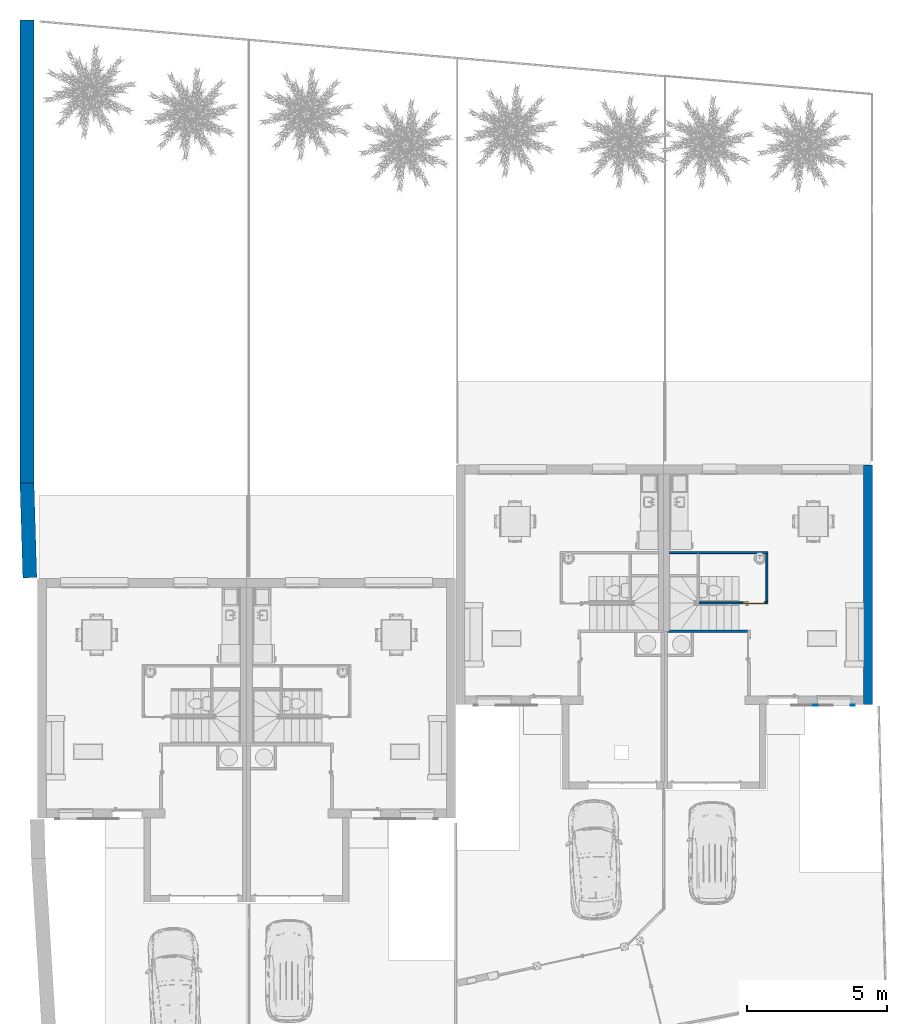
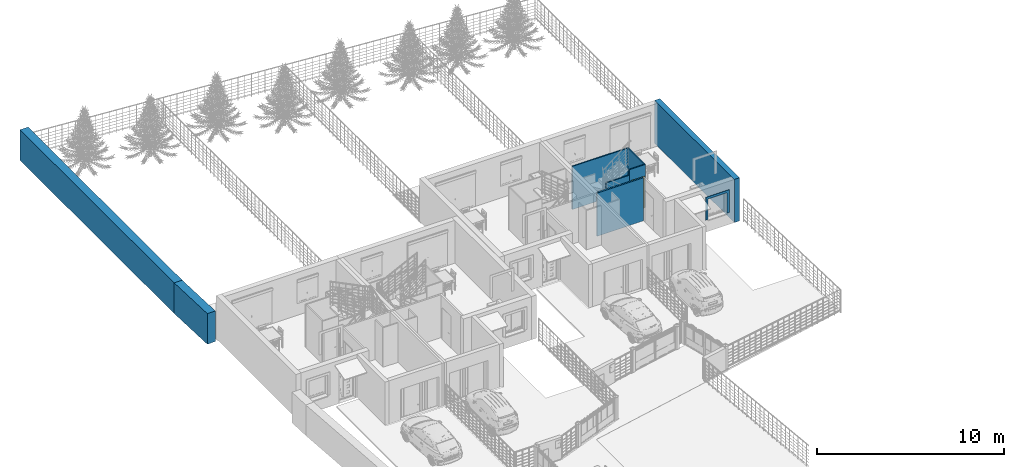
# One storey, part 22 of 33: 9 walls, 1 door, 2 openings.
"""IFC2X3 building model written with IfcOpenShell, lengths in metres."""

from ifc_helpers import new_model, entity, si_unit, converted_unit, derived_unit, direction, frame, frame_2d, origin, place, context, subcontext, project, spatial, polyline, rectangle, outline, extrude, faceted_brep, source, transform, mapped, material, material_list, layer, layer_set, layer_usage, type_object, type_shapes, element, fill, save


model = new_model("IFC2X3")

# Units and contexts
model_context = context("Model", 3, precision=1e-05, world=origin(), true_north=direction((6.12303176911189e-17, 1.0)))
context_of_model = context(None, 3, precision=1e-05, world=origin(), true_north=direction((6.12303176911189e-17, 1.0)))
body_context = subcontext(model_context, "Body", "Model", "MODEL_VIEW")
ifc_project = project(units=[si_unit("LENGTHUNIT", "METRE"), si_unit("AREAUNIT", "SQUARE_METRE"), si_unit("VOLUMEUNIT", "CUBIC_METRE"), converted_unit("PLANEANGLEUNIT", "DEGREE", entity("IfcRatioMeasure", 0.0174532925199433), si_unit("PLANEANGLEUNIT", "RADIAN"), dimensions=[0, 0, 0, 0, 0, 0, 0]), si_unit("MASSUNIT", "GRAM", prefix="KILO"), si_unit("TIMEUNIT", "SECOND"), si_unit("FREQUENCYUNIT", "HERTZ"), si_unit("THERMODYNAMICTEMPERATUREUNIT", "DEGREE_CELSIUS"), derived_unit("THERMALTRANSMITTANCEUNIT", [(si_unit("MASSUNIT", "GRAM", prefix="KILO"), 1), (si_unit("THERMODYNAMICTEMPERATUREUNIT", "KELVIN"), -1), (si_unit("TIMEUNIT", "SECOND"), -3)]), derived_unit("VOLUMETRICFLOWRATEUNIT", [(si_unit("LENGTHUNIT", "METRE"), 3), (si_unit("TIMEUNIT", "SECOND"), -1)]), si_unit("ELECTRICCURRENTUNIT", "AMPERE"), si_unit("ELECTRICVOLTAGEUNIT", "VOLT"), si_unit("POWERUNIT", "WATT"), si_unit("FORCEUNIT", "NEWTON", prefix="KILO"), si_unit("ILLUMINANCEUNIT", "LUX"), si_unit("LUMINOUSFLUXUNIT", "LUMEN"), si_unit("LUMINOUSINTENSITYUNIT", "CANDELA"), si_unit("PRESSUREUNIT", "PASCAL")], contexts=[model_context, context_of_model])

# Site, building, storey
site_placement = place(None, origin())
site = spatial("IfcSite", under=ifc_project, at=site_placement, Name="Surface", CompositionType="ELEMENT")
building_placement = place(site_placement, origin())
building = spatial("IfcBuilding", under=site, at=building_placement, CompositionType="ELEMENT")
storey_placement = place(building_placement, origin())
storey = spatial("IfcBuildingStorey", under=building, at=storey_placement, Name="Plan des fondations  Maisons 1 et 2", CompositionType="ELEMENT", Elevation=0.0)

# Walls
ifc_material_1 = material(Name="Enduit blanc cassé2")
ifc_layer_1 = layer(ifc_material_1, 0.02)
ifc_material_2 = material(Name="Parpaing")
ifc_layer_2 = layer(ifc_material_2, 0.2)
ifc_material_3 = material(Name="Isolant")
ifc_layer_3 = layer(ifc_material_3, 0.1)
ifc_layer_set_1 = layer_set([ifc_layer_1, ifc_layer_2, ifc_layer_3], Name="Mur de base:Ext. Parpaing 20 + Isolant 10 enduit blanc cassé")
ifc_layer_usage_1 = layer_usage(ifc_layer_set_1, "AXIS2", "POSITIVE", -0.16)
wall_type_1 = type_object("IfcWallType", Name="Mur de base:Ext. Parpaing 20 + Isolant 10 enduit blanc cassé", PredefinedType="STANDARD", material=ifc_layer_set_1)
wall_1_placement = place(building_placement, frame((90.9950487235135, 83.9275239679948, 0.0), z_axis=(0.0, 0.0, 1.0), x_axis=(0.0, 1.0, 0.0)))
element("IfcWallStandardCase", 1, at=wall_1_placement, inside=storey, type_object=wall_type_1, material=ifc_layer_usage_1, Name="Mur de base:Ext. Parpaing 20 + Isolant 10 enduit blanc cassé", ObjectType="Mur de base:Ext. Parpaing 20 + Isolant 10 enduit blanc cassé", context=body_context, shape_type="SweptSolid", body=[
    extrude(rectangle(XDim=8.54, YDim=0.319999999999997, at=frame_2d((4.27, 9.85322934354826e-16), x_axis=(-1.0, 0.0))), origin(), (0.0, 0.0, 1.0), 2.82),
])
ifc_material_4 = material(Name="Peinture - Blanc")
ifc_layer_4 = layer(ifc_material_4, 0.1)
ifc_layer_set_2 = layer_set([ifc_layer_4], Name="Mur de base:Int.  Platre 100 mm en blanc 2")
ifc_layer_usage_2 = layer_usage(ifc_layer_set_2, "AXIS2", "NEGATIVE", 0.05)
wall_type_2 = type_object("IfcWallType", Name="Mur de base:Int.  Platre 100 mm en blanc 2", PredefinedType="STANDARD", material=ifc_layer_set_2)
wall_2_placement = place(building_placement, frame((86.7067857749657, 86.5475239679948, 0.0), z_axis=(0.0, 0.0, 1.0), x_axis=(-1.0, 0.0, 0.0)))
element("IfcWallStandardCase", 2, at=wall_2_placement, inside=storey, type_object=wall_type_2, material=ifc_layer_usage_2, Name="Mur de base:Int.  Platre 100 mm en blanc 2", ObjectType="Mur de base:Int.  Platre 100 mm en blanc 2", context=body_context, shape_type="SweptSolid", body=[
    extrude(outline(polyline([(2.78000000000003, -0.0499999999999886), (2.78000000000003, 0.0), (2.86500000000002, 0.0), (2.86500000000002, 0.050000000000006), (2.00500000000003, 0.050000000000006), (1.93500000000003, 0.050000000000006), (0.0, 0.050000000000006), (0.0, -0.0499999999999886), (2.78000000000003, -0.0499999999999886)])), origin(), (0.0, 0.0, 1.0), 2.82),
])
ifc_layer_5 = layer(ifc_material_4, 0.07)
ifc_layer_set_3 = layer_set([ifc_layer_5], Name="Mur de base:Int.  Platre 70 mm en blanc")
ifc_layer_usage_3 = layer_usage(ifc_layer_set_3, "AXIS2", "NEGATIVE", 0.035)
wall_type_3 = type_object("IfcWallType", Name="Mur de base:Int.  Platre 70 mm en blanc", PredefinedType="STANDARD", material=ifc_layer_set_3)
wall_3_placement = place(storey_placement, frame((83.9267857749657, 89.3525239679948, 0.0)))
element("IfcWallStandardCase", 3, at=wall_3_placement, inside=storey, type_object=wall_type_3, material=ifc_layer_usage_3, Name="Mur de base:Int.  Platre 70 mm en blanc", ObjectType="Mur de base:Int.  Platre 70 mm en blanc", context=body_context, shape_type="SweptSolid", body=[
    extrude(rectangle(XDim=3.50211659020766, YDim=0.0699999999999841, at=frame_2d((1.75105829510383, 7.45931094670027e-16), x_axis=(-1.0, 0.0))), origin(), (0.0, 0.0, 1.0), 2.82),
])
ifc_layer_usage_4 = layer_usage(ifc_layer_set_3, "AXIS2", "NEGATIVE", 0.035)
wall_4_placement = place(storey_placement, frame((87.3939023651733, 87.5943952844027, 0.0), z_axis=(0.0, 0.0, 1.0), x_axis=(0.0, 1.0, 0.0)))
element("IfcWallStandardCase", 4, at=wall_4_placement, inside=storey, type_object=wall_type_3, material=ifc_layer_usage_4, Name="Mur de base:Int.  Platre 70 mm en blanc", ObjectType="Mur de base:Int.  Platre 70 mm en blanc", context=body_context, shape_type="SweptSolid", body=[
    extrude(rectangle(XDim=1.72312868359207, YDim=0.0699999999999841, at=frame_2d((0.861564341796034, 0.0), x_axis=(-1.0, 0.0))), origin(), (0.0, 0.0, 1.0), 2.82),
])
ifc_layer_usage_5 = layer_usage(ifc_layer_set_3, "AXIS2", "NEGATIVE", 0.035)
wall_5_placement = place(storey_placement, frame((84.9767857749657, 87.5625239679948, 0.0)))
element("IfcWallStandardCase", 5, at=wall_5_placement, inside=storey, type_object=wall_type_3, material=ifc_layer_usage_5, Name="Mur de base:Int.  Platre 70 mm en blanc", ObjectType="Mur de base:Int.  Platre 70 mm en blanc", context=body_context, shape_type="SweptSolid", body=[
    extrude(rectangle(XDim=1.45171659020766, YDim=0.0699999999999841, at=frame_2d((0.725858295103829, 3.03576608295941e-15), x_axis=(-1.0, 0.0))), origin(), (0.0, 0.0, 1.0), 2.45350535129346),
])

# Wall, opening, door
ifc_layer_usage_6 = layer_usage(ifc_layer_set_3, "AXIS2", "NEGATIVE", 0.035)
wall_6_placement = place(storey_placement, frame((86.4385023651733, 87.5593952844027, 0.0)))
wall_6 = element("IfcWallStandardCase", 6, at=wall_6_placement, inside=storey, type_object=wall_type_3, material=ifc_layer_usage_6, Name="Mur de base:Int.  Platre 70 mm en blanc", ObjectType="Mur de base:Int.  Platre 70 mm en blanc", context=body_context, shape_type="SweptSolid", body=[
    extrude(rectangle(XDim=0.9904, YDim=0.0699999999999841, at=frame_2d((0.4952, 2.43208231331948e-15), x_axis=(-1.0, 0.0))), origin(), (0.0, 0.0, 1.0), 2.82),
])
opening_1_placement = place(wall_6_placement, frame((0.900399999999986, 0.035000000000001, 0.0)))
opening_1 = element("IfcOpeningElement", 7, at=opening_1_placement, cuts=wall_6, Name="FR_Simple (R):73 x 204 - (70):1", ObjectType="Opening", context=body_context, shape_type="SweptSolid", body=[
    extrude(rectangle(XDim=2.075, YDim=0.799999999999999, at=frame_2d((1.0375, 0.400000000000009), x_axis=(1.0, 0.0))), frame((0.0, 0.0, 0.0), z_axis=(0.0, -1.0, 0.0), x_axis=(0.0, 0.0, 1.0)), (0.0, 0.0, 1.0), 0.07),
])
ifc_material_5 = material(Name="Poignée Porte")
ifc_material_6 = material(Name="Dormants Portes")
ifc_material_7 = material(Name="Panneaux Portes")
ifc_material_list_1 = material_list([ifc_material_5, ifc_material_6, ifc_material_7])
ifc_material_list_2 = material_list([ifc_material_5, ifc_material_6, ifc_material_7])
door_style = type_object("IfcDoorStyle", Name="73 x 204 - (70)", ConstructionType="NOTDEFINED", OperationType="SINGLE_SWING_LEFT", ParameterTakesPrecedence=False, Sizeable=False, material=ifc_material_list_2)
shared_shape = source(origin(), body_context, "Body", "Brep", [
    faceted_brep([(0.100352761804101, -0.0130000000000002, 0.766003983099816), (0.11, -0.0130000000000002, 0.770000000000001), (0.11, -0.0130000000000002, 0.980000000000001), (0.100352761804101, -0.0130000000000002, 0.983996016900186), (0.0900000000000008, -0.0130000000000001, 0.985358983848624), (0.0796472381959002, -0.0130000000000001, 0.983996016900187), (0.0700000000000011, -0.0130000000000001, 0.980000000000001), (0.0700000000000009, -0.0130000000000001, 0.770000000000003), (0.0796472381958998, -0.0130000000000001, 0.766003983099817), (0.0900000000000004, -0.0130000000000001, 0.764641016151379), (0.100352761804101, -0.00800000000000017, 0.983996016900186), (0.11, -0.00800000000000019, 0.980000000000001), (0.11, -0.00800000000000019, 0.770000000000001), (0.100352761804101, -0.00800000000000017, 0.766003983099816), (0.0900000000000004, -0.00800000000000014, 0.764641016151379), (0.0796472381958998, -0.0080000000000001, 0.766003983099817), (0.0700000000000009, -0.00800000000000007, 0.770000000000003), (0.0700000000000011, -0.00800000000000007, 0.980000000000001), (0.0796472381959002, -0.0080000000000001, 0.983996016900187), (0.0900000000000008, -0.00800000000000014, 0.985358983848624)], [[[0, 1, 2, 3, 4, 5, 6, 7, 8, 9]], [[10, 11, 12, 13, 14, 15, 16, 17, 18, 19]], [[16, 15, 8, 7]], [[8, 15, 14, 9]], [[14, 13, 0, 9]], [[13, 12, 1, 0]], [[2, 1, 12, 11]], [[11, 10, 3, 2]], [[3, 10, 19, 4]], [[19, 18, 5, 4]], [[18, 17, 6, 5]], [[7, 6, 17, 16]]]),
    faceted_brep([(0.100352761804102, 0.0319999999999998, 0.766003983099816), (0.110000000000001, 0.0319999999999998, 0.770000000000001), (0.11, 0.0319999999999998, 0.980000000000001), (0.100352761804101, 0.0319999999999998, 0.983996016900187), (0.0900000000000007, 0.0319999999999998, 0.985358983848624), (0.0796472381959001, 0.0319999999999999, 0.983996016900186), (0.0700000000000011, 0.0319999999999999, 0.980000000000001), (0.0700000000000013, 0.0319999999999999, 0.770000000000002), (0.0796472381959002, 0.0319999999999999, 0.766003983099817), (0.0900000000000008, 0.0319999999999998, 0.764641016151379), (0.100352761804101, 0.0369999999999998, 0.983996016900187), (0.11, 0.0369999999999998, 0.980000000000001), (0.110000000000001, 0.0369999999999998, 0.770000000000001), (0.100352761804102, 0.0369999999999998, 0.766003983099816), (0.0900000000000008, 0.0369999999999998, 0.764641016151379), (0.0796472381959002, 0.0369999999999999, 0.766003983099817), (0.0700000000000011, 0.0369999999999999, 0.770000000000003), (0.0700000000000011, 0.0369999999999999, 0.980000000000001), (0.0796472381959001, 0.0369999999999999, 0.983996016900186), (0.0900000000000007, 0.0369999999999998, 0.985358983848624)], [[[0, 1, 2, 3, 4, 5, 6, 7, 8, 9]], [[10, 11, 12, 13, 14, 15, 16, 17, 18, 19]], [[11, 10, 3, 2]], [[3, 10, 19, 4]], [[19, 18, 5, 4]], [[18, 17, 6, 5]], [[7, 6, 17, 16]], [[16, 15, 8, 7]], [[8, 15, 14, 9]], [[14, 13, 0, 9]], [[13, 12, 1, 0]], [[2, 1, 12, 11]]]),
    faceted_brep([(0.0879747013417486, -0.0130000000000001, 0.907780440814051), (0.0920252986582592, -0.0130000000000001, 0.907780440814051), (0.0960000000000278, -0.0130000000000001, 0.906999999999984), (0.0960000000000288, -0.0130000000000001, 0.893000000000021), (0.0920252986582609, -0.0130000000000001, 0.89221955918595), (0.0879747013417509, -0.0130000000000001, 0.892219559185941), (0.0839999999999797, -0.0130000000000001, 0.892999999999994), (0.0839999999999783, -0.0130000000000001, 0.90699999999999), (0.083999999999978, -0.0406509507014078, 0.906999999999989), (0.0879747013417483, -0.0390045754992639, 0.907780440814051), (0.104023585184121, -0.0550534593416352, 0.907780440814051), (0.105701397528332, -0.0510028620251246, 0.907780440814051), (0.0920252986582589, -0.0373267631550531, 0.907780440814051), (0.198521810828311, -0.0473891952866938, 0.90778044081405), (0.195657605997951, -0.0445249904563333, 0.90778044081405), (0.18917973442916, -0.0510028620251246, 0.90778044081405), (0.190857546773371, -0.0550534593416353, 0.90778044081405), (0.0960000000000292, -0.0356803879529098, 0.90699999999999), (0.0960000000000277, -0.0356803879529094, 0.893000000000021), (0.0920252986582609, -0.0373267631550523, 0.89221955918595), (0.105701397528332, -0.0510028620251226, 0.89221955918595), (0.104023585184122, -0.0550534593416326, 0.89221955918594), (0.0879747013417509, -0.0390045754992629, 0.89221955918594), (0.195657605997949, -0.044524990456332, 0.89221955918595), (0.19852181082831, -0.0473891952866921, 0.89221955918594), (0.19085754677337, -0.0550534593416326, 0.89221955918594), (0.18917973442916, -0.0510028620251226, 0.89221955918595), (0.0839999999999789, -0.0406509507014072, 0.892999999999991), (0.102377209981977, -0.0590281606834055, 0.906999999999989), (0.107347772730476, -0.0470281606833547, 0.90699999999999), (0.107347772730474, -0.0470281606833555, 0.893000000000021), (0.102377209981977, -0.0590281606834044, 0.892999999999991), (0.142307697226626, -0.0590281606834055, 0.906999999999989), (0.147440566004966, -0.053182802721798, 0.907878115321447), (0.192503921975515, -0.0590281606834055, 0.906999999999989), (0.147440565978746, -0.0470281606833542, 0.90699999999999), (0.187533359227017, -0.0470281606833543, 0.906999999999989), (0.187533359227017, -0.0470281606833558, 0.89300000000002), (0.147440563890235, -0.0470281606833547, 0.893000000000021), (0.147440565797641, -0.0531828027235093, 0.892121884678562), (0.192503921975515, -0.0590281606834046, 0.892999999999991), (0.152573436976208, -0.0590281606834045, 0.892999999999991), (0.192847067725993, -0.0417144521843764, 0.906999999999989), (0.201332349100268, -0.0501997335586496, 0.906999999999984), (0.201332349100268, -0.05019973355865, 0.892999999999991), (0.192847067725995, -0.0417144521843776, 0.893000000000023)], [[[0, 1, 2, 3, 4, 5, 6, 7]], [[8, 9, 0, 7]], [[9, 10, 11, 12, 1, 0]], [[13, 14, 15, 16]], [[12, 17, 2, 1]], [[3, 2, 17, 18]], [[18, 19, 4, 3]], [[19, 20, 21, 22, 5, 4]], [[23, 24, 25, 26]], [[22, 27, 6, 5]], [[7, 6, 27, 8]], [[28, 10, 9, 8]], [[11, 29, 17, 12]], [[18, 17, 29, 30]], [[30, 20, 19, 18]], [[21, 31, 27, 22]], [[8, 27, 31, 28]], [[32, 33, 10]], [[33, 32, 16]], [[10, 28, 32]], [[34, 16, 32]], [[33, 35, 11]], [[11, 10, 33]], [[15, 35, 33]], [[29, 11, 35]], [[35, 15, 36]], [[15, 33, 16]], [[30, 29, 35, 36, 37, 38]], [[20, 38, 39]], [[25, 40, 41]], [[31, 21, 41]], [[41, 21, 39]], [[39, 38, 26]], [[26, 25, 39]], [[38, 20, 30]], [[37, 26, 38]], [[20, 39, 21]], [[41, 39, 25]], [[28, 31, 41, 40, 34, 32]], [[42, 14, 13, 43, 44, 24, 23, 45]], [[43, 13, 16, 34]], [[14, 42, 36, 15]], [[37, 36, 42, 45]], [[45, 23, 26, 37]], [[24, 44, 40, 25]], [[34, 40, 44, 43]]]),
    faceted_brep([(0.0879747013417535, 0.0369999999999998, 0.892219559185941), (0.092025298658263, 0.0369999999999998, 0.892219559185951), (0.0960000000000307, 0.0369999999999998, 0.893000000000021), (0.096000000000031, 0.0369999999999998, 0.90699999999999), (0.0920252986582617, 0.0369999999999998, 0.907780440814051), (0.0879747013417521, 0.0369999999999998, 0.907780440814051), (0.0839999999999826, 0.0369999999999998, 0.90699999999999), (0.0839999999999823, 0.0369999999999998, 0.892999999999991), (0.0960000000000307, 0.0594852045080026, 0.893000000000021), (0.0960000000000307, 0.0594852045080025, 0.90699999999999), (0.092025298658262, 0.0611315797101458, 0.907780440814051), (0.105838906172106, 0.0749451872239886, 0.907780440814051), (0.104161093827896, 0.0789957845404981, 0.907780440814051), (0.0879747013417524, 0.0628093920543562, 0.907780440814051), (0.195684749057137, 0.0684673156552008, 0.907780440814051), (0.198548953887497, 0.071331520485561, 0.907780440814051), (0.190884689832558, 0.0789957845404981, 0.907780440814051), (0.189206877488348, 0.0749451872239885, 0.907780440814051), (0.0839999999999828, 0.0644557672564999, 0.90699999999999), (0.0839999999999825, 0.0644557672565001, 0.892999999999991), (0.0879747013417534, 0.0628093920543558, 0.892219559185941), (0.104161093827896, 0.0789957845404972, 0.892219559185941), (0.105838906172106, 0.0749451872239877, 0.892219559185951), (0.0920252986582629, 0.0611315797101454, 0.892219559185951), (0.198548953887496, 0.07133152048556, 0.89221955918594), (0.195684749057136, 0.0684673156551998, 0.89221955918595), (0.189206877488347, 0.0749451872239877, 0.89221955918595), (0.190884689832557, 0.0789957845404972, 0.89221955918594), (0.107485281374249, 0.0709704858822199, 0.893000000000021), (0.107485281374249, 0.0709704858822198, 0.90699999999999), (0.102514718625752, 0.0829704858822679, 0.90699999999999), (0.102514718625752, 0.0829704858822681, 0.892999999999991), (0.147522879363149, 0.0709704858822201, 0.89300000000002), (0.187560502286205, 0.0709704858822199, 0.89300000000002), (0.187560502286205, 0.0709704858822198, 0.90699999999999), (0.147522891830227, 0.0709704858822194, 0.90699999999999), (0.147522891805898, 0.0771249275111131, 0.907878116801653), (0.192531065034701, 0.0829704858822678, 0.90699999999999), (0.152600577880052, 0.0829704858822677, 0.90699999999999), (0.192531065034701, 0.082970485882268, 0.892999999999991), (0.142445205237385, 0.0829704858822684, 0.892999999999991), (0.147522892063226, 0.0771249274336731, 0.892121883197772), (0.192874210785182, 0.0656567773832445, 0.89300000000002), (0.201359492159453, 0.0741420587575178, 0.892999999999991), (0.201359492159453, 0.0741420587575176, 0.90699999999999), (0.192874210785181, 0.0656567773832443, 0.90699999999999)], [[[0, 1, 2, 3, 4, 5, 6, 7]], [[3, 2, 8, 9]], [[9, 10, 4, 3]], [[10, 11, 12, 13, 5, 4]], [[14, 15, 16, 17]], [[13, 18, 6, 5]], [[7, 6, 18, 19]], [[19, 20, 0, 7]], [[20, 21, 22, 23, 1, 0]], [[24, 25, 26, 27]], [[23, 8, 2, 1]], [[9, 8, 28, 29]], [[29, 11, 10, 9]], [[12, 30, 18, 13]], [[19, 18, 30, 31]], [[31, 21, 20, 19]], [[22, 28, 8, 23]], [[28, 32, 33, 34, 35, 29]], [[11, 35, 36]], [[16, 37, 38]], [[30, 12, 38]], [[38, 12, 36]], [[36, 35, 17]], [[17, 16, 36]], [[35, 11, 29]], [[34, 17, 35]], [[11, 36, 12]], [[38, 36, 16]], [[31, 30, 38, 37, 39, 40]], [[40, 41, 21]], [[41, 40, 27]], [[21, 31, 40]], [[39, 27, 40]], [[41, 32, 22]], [[22, 21, 41]], [[26, 32, 41]], [[28, 22, 32]], [[32, 26, 33]], [[26, 41, 27]], [[42, 25, 24, 43, 44, 15, 14, 45]], [[34, 33, 42, 45]], [[45, 14, 17, 34]], [[15, 44, 37, 16]], [[39, 37, 44, 43]], [[43, 24, 27, 39]], [[25, 42, 33, 26]]]),
    faceted_brep([(0.0, 0.0, 0.0), (0.0, 0.0700000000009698, 0.0), (-0.00999999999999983, 0.0700000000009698, 0.0), (-0.00999999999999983, 0.0780000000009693, 0.0), (0.0499999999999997, 0.0780000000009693, 0.0), (0.0499999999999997, 0.032, 0.0), (0.0350000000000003, 0.032, 0.0), (0.0350000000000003, -0.00799999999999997, 0.0), (-0.00999999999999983, -0.00799999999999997, 0.0), (-0.00999999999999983, 0.0, 0.0), (0.0, 0.0, 2.075), (0.0, 0.0700000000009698, 2.075), (0.799999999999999, 0.0700000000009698, 2.075), (0.799999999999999, 0.0700000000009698, 0.0), (0.809999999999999, 0.0700000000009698, 0.0), (0.809999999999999, 0.0700000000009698, 2.085), (-0.00999999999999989, 0.0700000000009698, 2.085), (-0.00999999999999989, 0.0780000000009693, 2.085), (0.809999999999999, 0.0780000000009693, 2.085), (0.809999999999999, 0.0780000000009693, 0.0), (0.75, 0.0780000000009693, 0.0), (0.75, 0.0780000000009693, 2.025), (0.0499999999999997, 0.0780000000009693, 2.025), (0.0499999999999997, 0.032, 2.025), (0.75, 0.032, 2.025), (0.75, 0.032, 0.0), (0.764999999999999, 0.032, 0.0), (0.764999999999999, 0.032, 2.04), (0.0350000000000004, 0.032, 2.04), (0.0350000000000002, -0.00799999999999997, 2.04), (0.764999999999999, -0.00799999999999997, 2.04), (0.764999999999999, -0.00799999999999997, 0.0), (0.809999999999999, -0.00799999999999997, 0.0), (0.809999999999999, -0.00799999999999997, 2.085), (-0.00999999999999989, -0.00799999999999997, 2.085), (-0.00999999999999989, 0.0, 2.085), (0.809999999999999, 0.0, 2.085), (0.809999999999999, 0.0, 0.0), (0.799999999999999, 0.0, 0.0), (0.799999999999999, 0.0, 2.075)], [[[0, 1, 2, 3, 4, 5, 6, 7, 8, 9]], [[1, 0, 10, 11]], [[2, 1, 11, 12, 13, 14, 15, 16]], [[3, 2, 16, 17]], [[4, 3, 17, 18, 19, 20, 21, 22]], [[5, 4, 22, 23]], [[6, 5, 23, 24, 25, 26, 27, 28]], [[7, 6, 28, 29]], [[8, 7, 29, 30, 31, 32, 33, 34]], [[9, 8, 34, 35]], [[0, 9, 35, 36, 37, 38, 39, 10]], [[11, 10, 39, 12]], [[17, 16, 15, 18]], [[23, 22, 21, 24]], [[29, 28, 27, 30]], [[35, 34, 33, 36]], [[38, 37, 32, 31, 26, 25, 20, 19, 14, 13]], [[12, 39, 38, 13]], [[18, 15, 14, 19]], [[24, 21, 20, 25]], [[30, 27, 26, 31]], [[36, 33, 32, 37]]]),
    faceted_brep([(0.0350000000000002, -0.00799999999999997, 2.04), (0.0350000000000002, -0.00799999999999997, 0.0), (0.764999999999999, -0.00799999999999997, 0.0), (0.764999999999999, -0.00799999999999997, 2.04), (0.0350000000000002, 0.032, 2.04), (0.764999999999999, 0.032, 2.04), (0.764999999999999, 0.032, 0.0), (0.0350000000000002, 0.032, 0.0)], [[[0, 1, 2, 3]], [[4, 5, 6, 7]], [[1, 0, 4, 7]], [[2, 1, 7, 6]], [[3, 2, 6, 5]], [[0, 3, 5, 4]]]),
])
type_shapes(door_style, [shared_shape])
door_placement = place(opening_1_placement, frame((-0.800000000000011, -0.069999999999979, 0.0)))
door = element("IfcDoor", 8, at=door_placement, inside=storey, type_object=door_style, material=ifc_material_list_1, Name="FR_Simple (R):73 x 204 - (70)", ObjectType="73 x 204 - (70)", OverallHeight=2.075, OverallWidth=0.800000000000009, context=body_context, shape_type="MappedRepresentation", body=[
    mapped(shared_shape, transform((0.0, 0.0, 0.0), scale=1.0)),
])
fill(opening_1, door)

# Wall, opening
ifc_material_8 = material(Name="Enduit blanc cassé")
ifc_layer_6 = layer(ifc_material_8, 0.01)
ifc_layer_7 = layer(ifc_material_2, 0.01)
ifc_layer_8 = layer(ifc_material_8, 0.01)
ifc_layer_set_4 = layer_set([ifc_layer_6, ifc_layer_7, ifc_layer_8], Name="Mur de base:modénateurs ep 2 cm gris")
ifc_layer_usage_7 = layer_usage(ifc_layer_set_4, "AXIS2", "NEGATIVE", 0.015)
wall_type_4 = type_object("IfcWallType", Name="Mur de base:modénateurs ep 2 cm gris", PredefinedType="STANDARD", material=ifc_layer_set_4)
wall_7_placement = place(building_placement, frame((89.0500487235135, 83.9075239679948, 0.799999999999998)))
wall_7 = element("IfcWallStandardCase", 9, at=wall_7_placement, inside=storey, type_object=wall_type_4, material=ifc_layer_usage_7, Name="Mur de base:modénateurs ep 2 cm gris", ObjectType="Mur de base:modénateurs ep 2 cm gris", context=body_context, shape_type="SweptSolid", body=[
    extrude(rectangle(XDim=1.47499999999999, YDim=0.0299999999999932, at=frame_2d((0.737499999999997, 0.0), x_axis=(-1.0, 0.0))), origin(), (0.0, 0.0, 1.0), 1.48912543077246),
])
opening_2_placement = place(wall_7_placement, origin())
element("IfcOpeningElement", 10, at=opening_2_placement, cuts=wall_7, Name="Mur de base:modénateurs ep 2 cm gris", ObjectType="Opening", context=body_context, shape_type="SweptSolid", body=[
    extrude(rectangle(XDim=1.33912543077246, YDim=1.17499999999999, at=frame_2d((0.0, 0.0), x_axis=(0.0, 1.0))), frame((0.737499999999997, 0.0149999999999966, 0.669562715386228), z_axis=(0.0, -1.0, 0.0), x_axis=(1.0, 0.0, 0.0)), (0.0, 0.0, 1.0), 0.03),
])

# Walls
ifc_material_9 = material(Name="Mur par défaut")
ifc_layer_9 = layer(ifc_material_9, 0.5)
ifc_layer_set_5 = layer_set([ifc_layer_9], Name="Mur de base:Mur exterieure en pierre - Ext. 500 MM")
ifc_layer_usage_8 = layer_usage(ifc_layer_set_5, "AXIS2", "NEGATIVE", 0.25)
wall_type_5 = type_object("IfcWallType", Name="Mur de base:Mur exterieure en pierre - Ext. 500 MM", PredefinedType="STANDARD", material=ifc_layer_set_5)
wall_8_placement = place(building_placement, frame((61.0079488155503, 108.344056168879, -0.2), z_axis=(0.0, 0.0, 1.0), x_axis=(0.0, -1.0, 0.0)))
element("IfcWallStandardCase", 11, at=wall_8_placement, inside=storey, type_object=wall_type_5, material=ifc_layer_usage_8, Name="Mur de base:Mur exterieure en pierre - Ext. 500 MM", ObjectType="Mur de base:Mur exterieure en pierre - Ext. 500 MM", context=body_context, shape_type="SweptSolid", body=[
    extrude(outline(polyline([(16.5124224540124, -0.249999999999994), (16.504909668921, 0.250000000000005), (0.0, 0.250000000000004), (0.0, -0.249999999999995), (16.5124224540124, -0.249999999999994)])), origin(), (0.0, 0.0, 1.0), 2.0),
])
ifc_layer_usage_9 = layer_usage(ifc_layer_set_5, "AXIS2", "NEGATIVE", 0.25)
wall_9_placement = place(storey_placement, frame((61.0078359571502, 91.8391448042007, -0.2), z_axis=(0.0, 0.0, 1.0), x_axis=(0.0300443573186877, -0.999548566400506, 0.0)))
element("IfcWallStandardCase", 12, at=wall_9_placement, inside=storey, type_object=wall_type_5, material=ifc_layer_usage_9, Name="Mur de base:Mur exterieure en pierre - Ext. 500 MM", ObjectType="Mur de base:Mur exterieure en pierre - Ext. 500 MM", context=body_context, shape_type="SweptSolid", body=[
    extrude(outline(polyline([(3.38375639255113, -0.24999999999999), (3.38375639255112, 0.250000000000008), (0.00751278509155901, 0.250000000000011), (0.0, -0.249999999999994), (3.38375639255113, -0.24999999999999)])), origin(), (0.0, 0.0, 1.0), 2.0),
])

save(model, "model.ifc")
